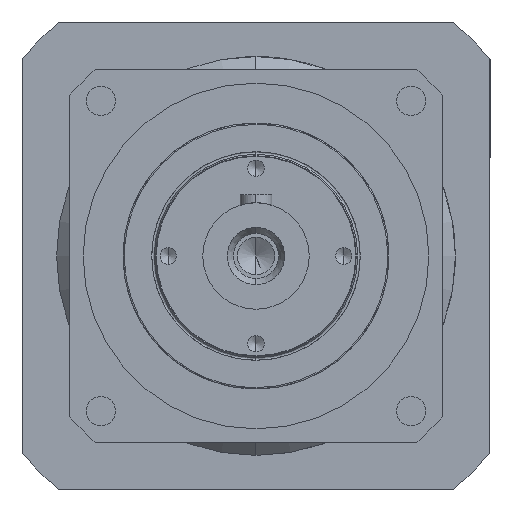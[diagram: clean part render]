
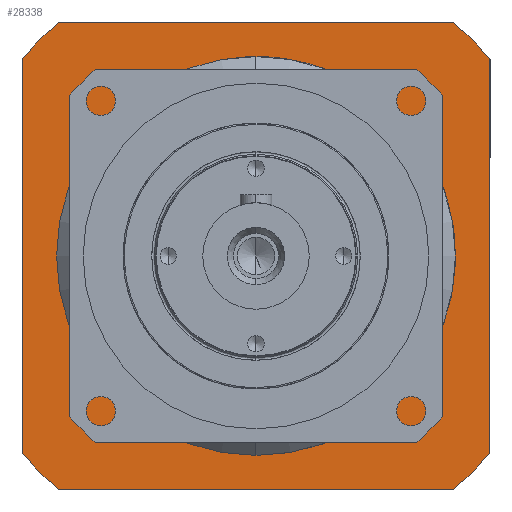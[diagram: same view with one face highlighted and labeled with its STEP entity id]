
A CAD part, left-side view. The second image highlights one B-rep face of the part: STEP entity #28338.
In plain terms, the highlighted planar face has unit normal (-1, 0, 0) as drawn and (0, 0, 1) by its records, which use the part's own axes.
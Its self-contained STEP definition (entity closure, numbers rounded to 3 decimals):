
#382 = DIRECTION ( 'NONE',  ( 0., 0., -1. ) ) ;
#411 = LINE ( 'NONE', #23306, #14790 ) ;
#1007 = ORIENTED_EDGE ( 'NONE', *, *, #5512, .F. ) ;
#1168 = CIRCLE ( 'NONE', #30006, 62.5 ) ;
#1373 = LINE ( 'NONE', #24979, #23379 ) ;
#1933 = CARTESIAN_POINT ( 'NONE',  ( 88., -74.034, 0. ) ) ;
#1936 = EDGE_LOOP ( 'NONE', ( #34946, #9936 ) ) ;
#4272 = VERTEX_POINT ( 'NONE', #12752 ) ;
#4808 = AXIS2_PLACEMENT_3D ( 'NONE', #27373, #10130, #30250 ) ;
#5000 = VERTEX_POINT ( 'NONE', #22112 ) ;
#5042 = EDGE_CURVE ( 'NONE', #25308, #7657, #1168, .T. ) ;
#5303 = AXIS2_PLACEMENT_3D ( 'NONE', #17611, #382, #20501 ) ;
#5512 = EDGE_CURVE ( 'NONE', #35547, #4272, #28545, .T. ) ;
#5606 = CARTESIAN_POINT ( 'NONE',  ( -88., 74.034, 0. ) ) ;
#6004 = LINE ( 'NONE', #26175, #18627 ) ;
#6989 = CARTESIAN_POINT ( 'NONE',  ( 0., 0., 0. ) ) ;
#7192 = VERTEX_POINT ( 'NONE', #35447 ) ;
#7358 = VERTEX_POINT ( 'NONE', #25687 ) ;
#7657 = VERTEX_POINT ( 'NONE', #21051 ) ;
#7718 = DIRECTION ( 'NONE',  ( 0., 0., -1. ) ) ;
#7747 = DIRECTION ( 'NONE',  ( -1., 0., 0. ) ) ;
#7905 = CARTESIAN_POINT ( 'NONE',  ( -74.034, -88., 0. ) ) ;
#8115 = ORIENTED_EDGE ( 'NONE', *, *, #18699, .F. ) ;
#8795 = EDGE_LOOP ( 'NONE', ( #35988, #25109, #35427, #30871, #8115, #28825, #1007, #32935 ) ) ;
#8873 = VERTEX_POINT ( 'NONE', #12198 ) ;
#8952 = DIRECTION ( 'NONE',  ( 0., -1., 0. ) ) ;
#9059 = LINE ( 'NONE', #28672, #16715 ) ;
#9216 = DIRECTION ( 'NONE',  ( 0., 0., -1. ) ) ;
#9495 = EDGE_CURVE ( 'NONE', #7358, #21066, #9059, .T. ) ;
#9884 = DIRECTION ( 'NONE',  ( 1., 0., 0. ) ) ;
#9936 = ORIENTED_EDGE ( 'NONE', *, *, #29068, .F. ) ;
#10130 = DIRECTION ( 'NONE',  ( 0., 0., -1. ) ) ;
#10930 = DIRECTION ( 'NONE',  ( -1., 0., 0. ) ) ;
#11440 = DIRECTION ( 'NONE',  ( 0., 1., 0. ) ) ;
#11845 = DIRECTION ( 'NONE',  ( 1., 0., 0. ) ) ;
#12198 = CARTESIAN_POINT ( 'NONE',  ( 88., 74.034, 0. ) ) ;
#12752 = CARTESIAN_POINT ( 'NONE',  ( 74.034, -88., 0. ) ) ;
#13046 = AXIS2_PLACEMENT_3D ( 'NONE', #6989, #27108, #9884 ) ;
#13793 = DIRECTION ( 'NONE',  ( 0., 0., 1. ) ) ;
#14790 = VECTOR ( 'NONE', #11845, 1000. ) ;
#15925 = AXIS2_PLACEMENT_3D ( 'NONE', #26442, #9216, #29315 ) ;
#16715 = VECTOR ( 'NONE', #11440, 1000. ) ;
#17611 = CARTESIAN_POINT ( 'NONE',  ( 0., 0., 0. ) ) ;
#18228 = VERTEX_POINT ( 'NONE', #7905 ) ;
#18627 = VECTOR ( 'NONE', #8952, 1000. ) ;
#18699 = EDGE_CURVE ( 'NONE', #18228, #7358, #28528, .T. ) ;
#18929 = FACE_OUTER_BOUND ( 'NONE', #8795, .T. ) ;
#19379 = EDGE_CURVE ( 'NONE', #7192, #8873, #20873, .T. ) ;
#20501 = DIRECTION ( 'NONE',  ( 1., 0., 0. ) ) ;
#20873 = CIRCLE ( 'NONE', #5303, 115. ) ;
#21051 = CARTESIAN_POINT ( 'NONE',  ( -62.5, 0., 0. ) ) ;
#21066 = VERTEX_POINT ( 'NONE', #5606 ) ;
#22112 = CARTESIAN_POINT ( 'NONE',  ( -74.034, 88., 0. ) ) ;
#22405 = PLANE ( 'NONE',  #30611 ) ;
#23306 = CARTESIAN_POINT ( 'NONE',  ( -88., 88., 0. ) ) ;
#23379 = VECTOR ( 'NONE', #7747, 1000. ) ;
#24942 = CARTESIAN_POINT ( 'NONE',  ( 0., 0., 0. ) ) ;
#24979 = CARTESIAN_POINT ( 'NONE',  ( -88., -88., 0. ) ) ;
#25109 = ORIENTED_EDGE ( 'NONE', *, *, #30493, .F. ) ;
#25286 = CARTESIAN_POINT ( 'NONE',  ( 0., 62.5, 0. ) ) ;
#25308 = VERTEX_POINT ( 'NONE', #36525 ) ;
#25523 = EDGE_CURVE ( 'NONE', #8873, #35547, #6004, .T. ) ;
#25609 = CIRCLE ( 'NONE', #13046, 62.5 ) ;
#25687 = CARTESIAN_POINT ( 'NONE',  ( -88., -74.034, 0. ) ) ;
#26175 = CARTESIAN_POINT ( 'NONE',  ( 88., 88., 0. ) ) ;
#26442 = CARTESIAN_POINT ( 'NONE',  ( 0., 0., 0. ) ) ;
#27108 = DIRECTION ( 'NONE',  ( 0., 0., 1. ) ) ;
#27373 = CARTESIAN_POINT ( 'NONE',  ( 0., 0., 0. ) ) ;
#27854 = DIRECTION ( 'NONE',  ( 1., 0., 0. ) ) ;
#27989 = EDGE_CURVE ( 'NONE', #21066, #5000, #33766, .T. ) ;
#28174 = DIRECTION ( 'NONE',  ( 0., 0., -1. ) ) ;
#28338 = ADVANCED_FACE ( 'NONE', ( #18929, #34212 ), #22405, .F. ) ;
#28528 = CIRCLE ( 'NONE', #4808, 115. ) ;
#28545 = CIRCLE ( 'NONE', #35105, 115. ) ;
#28672 = CARTESIAN_POINT ( 'NONE',  ( -88., 88., 0. ) ) ;
#28825 = ORIENTED_EDGE ( 'NONE', *, *, #29795, .F. ) ;
#29068 = EDGE_CURVE ( 'NONE', #7657, #25308, #25609, .T. ) ;
#29315 = DIRECTION ( 'NONE',  ( 1., 0., 0. ) ) ;
#29795 = EDGE_CURVE ( 'NONE', #4272, #18228, #1373, .T. ) ;
#30006 = AXIS2_PLACEMENT_3D ( 'NONE', #31010, #13793, #33919 ) ;
#30250 = DIRECTION ( 'NONE',  ( 1., 0., 0. ) ) ;
#30493 = EDGE_CURVE ( 'NONE', #5000, #7192, #411, .T. ) ;
#30611 = AXIS2_PLACEMENT_3D ( 'NONE', #25286, #28174, #10930 ) ;
#30871 = ORIENTED_EDGE ( 'NONE', *, *, #9495, .F. ) ;
#31010 = CARTESIAN_POINT ( 'NONE',  ( 0., 0., 0. ) ) ;
#32935 = ORIENTED_EDGE ( 'NONE', *, *, #25523, .F. ) ;
#33766 = CIRCLE ( 'NONE', #15925, 115. ) ;
#33919 = DIRECTION ( 'NONE',  ( 1., 0., 0. ) ) ;
#34212 = FACE_BOUND ( 'NONE', #1936, .T. ) ;
#34946 = ORIENTED_EDGE ( 'NONE', *, *, #5042, .F. ) ;
#35105 = AXIS2_PLACEMENT_3D ( 'NONE', #24942, #7718, #27854 ) ;
#35427 = ORIENTED_EDGE ( 'NONE', *, *, #27989, .F. ) ;
#35447 = CARTESIAN_POINT ( 'NONE',  ( 74.034, 88., 0. ) ) ;
#35547 = VERTEX_POINT ( 'NONE', #1933 ) ;
#35988 = ORIENTED_EDGE ( 'NONE', *, *, #19379, .F. ) ;
#36525 = CARTESIAN_POINT ( 'NONE',  ( 62.5, 0., 0. ) ) ;
